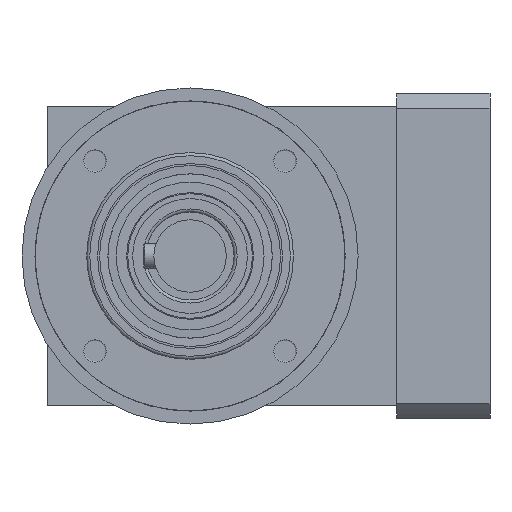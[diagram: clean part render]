
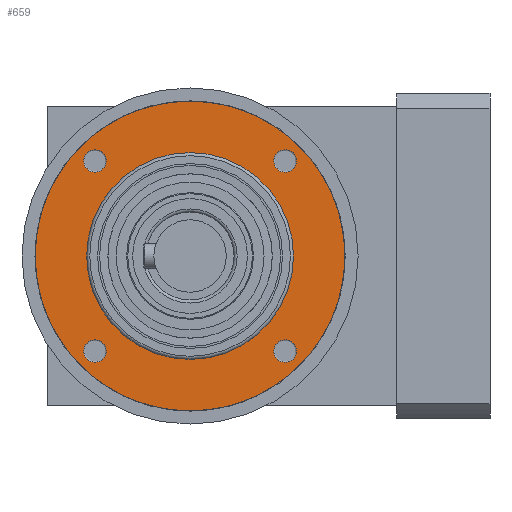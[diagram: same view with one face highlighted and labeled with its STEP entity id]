
A CAD part, left-side view. The second image highlights one B-rep face of the part: STEP entity #659.
In plain terms, the highlighted planar face has unit normal (-1, 0, 0).
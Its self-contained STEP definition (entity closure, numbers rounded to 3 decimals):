
#490=FACE_BOUND('',#1038,.T.);
#491=FACE_BOUND('',#1039,.T.);
#492=FACE_BOUND('',#1040,.T.);
#493=FACE_BOUND('',#1041,.T.);
#659=ADVANCED_FACE('',(#490,#491,#492,#493,#850),#772,.T.);
#772=PLANE('',#2338);
#850=FACE_OUTER_BOUND('',#1042,.T.);
#1038=EDGE_LOOP('',(#1390));
#1039=EDGE_LOOP('',(#1391));
#1040=EDGE_LOOP('',(#1392));
#1041=EDGE_LOOP('',(#1393));
#1042=EDGE_LOOP('',(#1394));
#1390=ORIENTED_EDGE('',*,*,#1935,.T.);
#1391=ORIENTED_EDGE('',*,*,#1936,.T.);
#1392=ORIENTED_EDGE('',*,*,#1937,.T.);
#1393=ORIENTED_EDGE('',*,*,#1938,.T.);
#1394=ORIENTED_EDGE('',*,*,#1939,.T.);
#1718=VERTEX_POINT('',#3537);
#1719=VERTEX_POINT('',#3539);
#1720=VERTEX_POINT('',#3541);
#1721=VERTEX_POINT('',#3543);
#1722=VERTEX_POINT('',#3545);
#1935=EDGE_CURVE('',#1718,#1718,#2122,.T.);
#1936=EDGE_CURVE('',#1719,#1719,#2123,.T.);
#1937=EDGE_CURVE('',#1720,#1720,#2124,.T.);
#1938=EDGE_CURVE('',#1721,#1721,#2125,.T.);
#1939=EDGE_CURVE('',#1722,#1722,#2126,.T.);
#2122=CIRCLE('',#2333,2.175);
#2123=CIRCLE('',#2334,2.175);
#2124=CIRCLE('',#2335,2.175);
#2125=CIRCLE('',#2336,2.175);
#2126=CIRCLE('',#2337,30.);
#2333=AXIS2_PLACEMENT_3D('',#3536,#2803,#2804);
#2334=AXIS2_PLACEMENT_3D('',#3538,#2805,#2806);
#2335=AXIS2_PLACEMENT_3D('',#3540,#2807,#2808);
#2336=AXIS2_PLACEMENT_3D('',#3542,#2809,#2810);
#2337=AXIS2_PLACEMENT_3D('',#3544,#2811,#2812);
#2338=AXIS2_PLACEMENT_3D('',#3546,#2813,#2814);
#2803=DIRECTION('',(1.,0.,0.));
#2804=DIRECTION('',(0.,-0.707,-0.707));
#2805=DIRECTION('',(1.,0.,0.));
#2806=DIRECTION('',(0.,0.707,-0.707));
#2807=DIRECTION('',(1.,0.,0.));
#2808=DIRECTION('',(0.,0.707,0.707));
#2809=DIRECTION('',(1.,0.,0.));
#2810=DIRECTION('',(0.,-0.707,0.707));
#2811=DIRECTION('',(-1.,0.,0.));
#2812=DIRECTION('',(0.,-0.707,0.707));
#2813=DIRECTION('',(-1.,0.,0.));
#2814=DIRECTION('',(0.,-0.707,0.707));
#3536=CARTESIAN_POINT('',(-90.95,-18.385,18.385));
#3537=CARTESIAN_POINT('',(-90.95,-19.923,16.847));
#3538=CARTESIAN_POINT('',(-90.95,-18.385,-18.385));
#3539=CARTESIAN_POINT('',(-90.95,-16.847,-19.923));
#3540=CARTESIAN_POINT('',(-90.95,18.385,-18.385));
#3541=CARTESIAN_POINT('',(-90.95,19.923,-16.847));
#3542=CARTESIAN_POINT('',(-90.95,18.385,18.385));
#3543=CARTESIAN_POINT('',(-90.95,16.847,19.923));
#3544=CARTESIAN_POINT('',(-90.95,0.,0.));
#3545=CARTESIAN_POINT('',(-90.95,-21.213,21.213));
#3546=CARTESIAN_POINT('',(-90.95,0.,0.));
